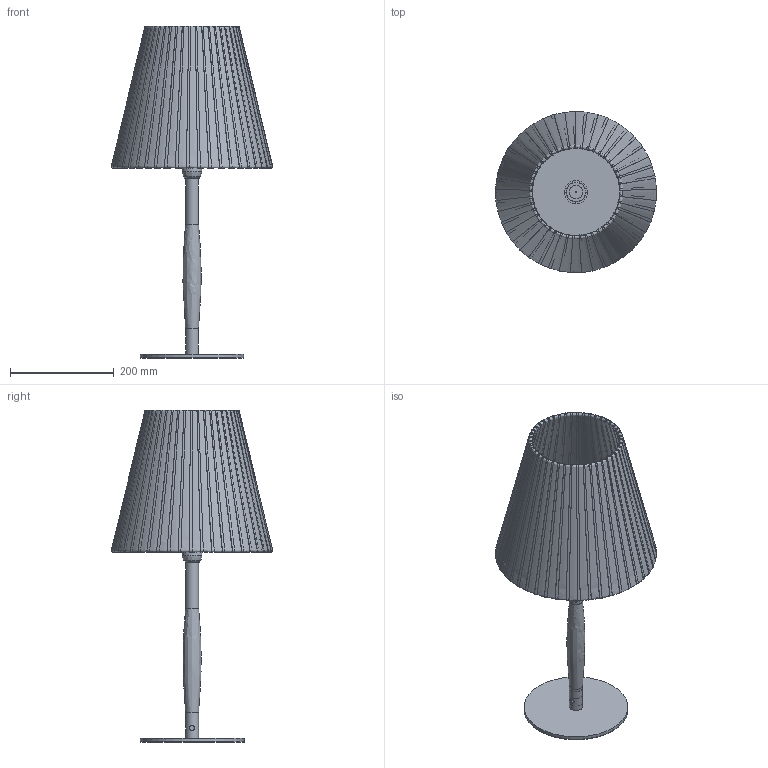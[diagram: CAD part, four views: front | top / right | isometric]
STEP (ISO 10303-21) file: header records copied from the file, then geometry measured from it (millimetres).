
FILE_DESCRIPTION( ( 'STEP AP203' ), '1' );
FILE_NAME( '//srvbf/BF Disegni/BETTY/BETTY-L Lumetto 3D.stp', '2020-10-16T13:55:13', ( ' ' ), ( ' ' ), 'XStep 1.0', ' ', ' ' );
FILE_SCHEMA( ( 'CONFIG_CONTROL_DESIGN) ( )' ) );
Length unit declared in the file: metre
Products named in the file (67): Assem1; 1; 2; 3; 4; 5; 6; 7; 8; 9; 10; 11; 12; 13; 14; 15; 16; 17; 18; 19; 20; 21; 22; 23; 24; 25; 26; 27; 28; 29; 30; 31; 32; 33; 34; 35; 36; 37; 38; 39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
Bounding box: 310.64 x 310.46 x 639.51 mm (x, y, z)
Volume: 1610906.6 mm3; surface area: 2714718.1 mm2
Topology: 132 solids, 132 shells, 898 faces, 1530 edges, 900 vertices
Faces by surface type: plane 268, cone 234, bspline 186, cylinder 184, torus 26
Full cylindrical faces by diameter (mm): 2.856 x2, 4 x12, 5 x54, 6.5 x2, 7 x4, 9 x68, 9.5 x2, 10 x4, 11 x4, 21.8 x4, 22 x12, 25 x4, 25.358 x2, 36.229 x2, 37.995 x2, 45 x2, 200 x4
Entity records: 51001 total; most frequent: CARTESIAN_POINT 41045, DIRECTION 1358, EDGE_LOOP 876, ORIENTED_EDGE 876, AXIS2_PLACEMENT_3D 679, FACE_OUTER_BOUND 643, ADVANCED_FACE 449, EDGE_CURVE 438
